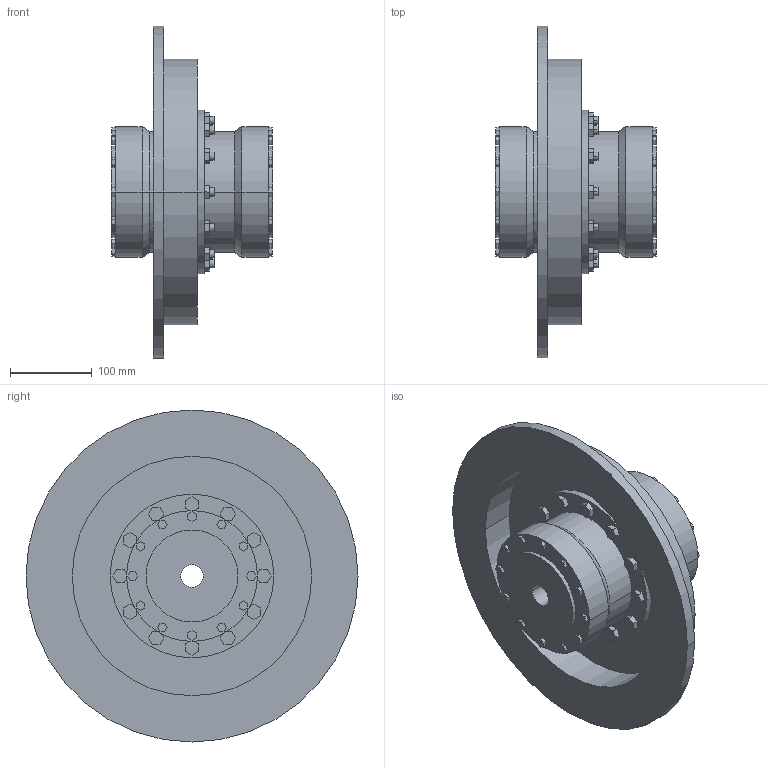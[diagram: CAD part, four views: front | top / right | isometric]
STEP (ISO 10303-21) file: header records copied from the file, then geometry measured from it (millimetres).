
FILE_DESCRIPTION((''),'2;1');
FILE_NAME('A19101000-0_ASM','2019-05-23T',('AB_Roschiwal'),('RENK AG'),'PRO/ENGINEER BY PARAMETRIC TECHNOLOGY CORPORATION, 2015440','PRO/ENGINEER BY PARAMETRIC TECHNOLOGY CORPORATION, 2015440','');
FILE_SCHEMA(('CONFIG_CONTROL_DESIGN'));
Length unit declared in the file: millimetre
Products named in the file (4): SBKT70_GEHAEUSE; SBKT70_NABE; SBKT70_BREMSSCHEIBE; A19101000-0_ASM
Assembly tree (4 placements, depth 2):
  A19101000-0_ASM
    SBKT70_GEHAEUSE
    SBKT70_NABE  x2
    SBKT70_BREMSSCHEIBE
Bounding box: 198 x 406 x 406 mm (x, y, z)
Volume: 5093146.1 mm3; surface area: 735855.2 mm2
Topology: 4 solids, 4 shells, 470 faces, 1156 edges, 768 vertices
Faces by surface type: plane 370, cylinder 96, cone 4
Entity records: 13604 total; most frequent: CARTESIAN_POINT 2350, ORIENTED_EDGE 2264, DIRECTION 2240, EDGE_CURVE 1132, VECTOR 956, LINE 956, VERTEX_POINT 752, AXIS2_PLACEMENT_3D 642
